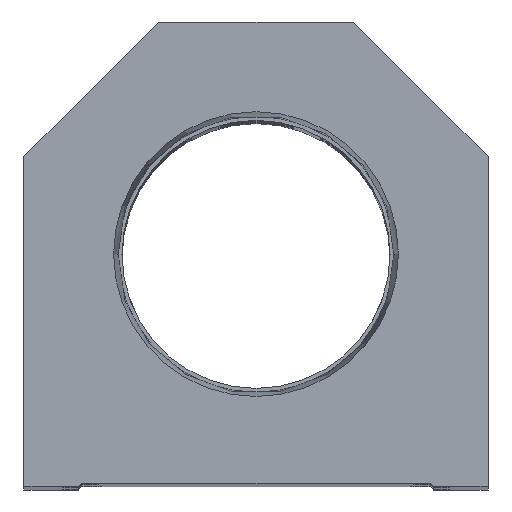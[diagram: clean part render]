
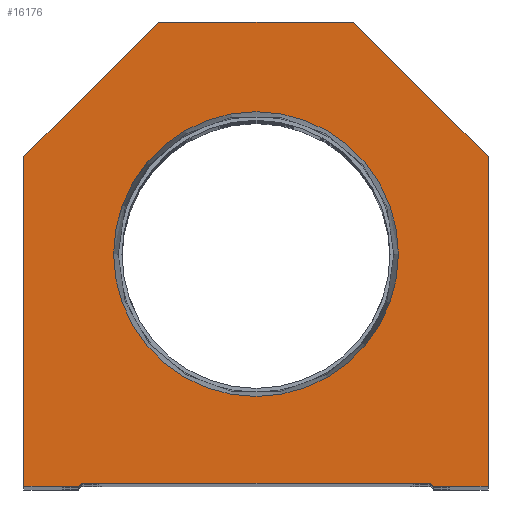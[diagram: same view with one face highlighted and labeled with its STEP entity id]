
A CAD part, top view. The second image highlights one B-rep face of the part: STEP entity #16176.
In plain terms, the highlighted planar face has unit normal (0, 0, 1).
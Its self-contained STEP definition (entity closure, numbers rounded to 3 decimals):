
#116 = VECTOR ( 'NONE', #8942, 1000. ) ;
#908 = EDGE_LOOP ( 'NONE', ( #2891, #5178, #23060, #20714, #13742, #9587, #17423, #8876, #2994, #23233 ) ) ;
#935 = CARTESIAN_POINT ( 'NONE',  ( -29.1, 0., 0. ) ) ;
#2201 = EDGE_CURVE ( 'NONE', #18374, #23171, #15187, .T. ) ;
#2291 = AXIS2_PLACEMENT_3D ( 'NONE', #8174, #10384, #20567 ) ;
#2376 = FACE_OUTER_BOUND ( 'NONE', #908, .T. ) ;
#2480 = VERTEX_POINT ( 'NONE', #18361 ) ;
#2891 = ORIENTED_EDGE ( 'NONE', *, *, #5960, .T. ) ;
#2893 = FACE_BOUND ( 'NONE', #15904, .T. ) ;
#2994 = ORIENTED_EDGE ( 'NONE', *, *, #9321, .T. ) ;
#3332 = CARTESIAN_POINT ( 'NONE',  ( 14.55, 14.55, 0. ) ) ;
#3444 = CARTESIAN_POINT ( 'NONE',  ( 28.6, 0.5, 0. ) ) ;
#3659 = VECTOR ( 'NONE', #13157, 1000. ) ;
#4015 = DIRECTION ( 'NONE',  ( 1., 0., 0. ) ) ;
#4103 = CARTESIAN_POINT ( 'NONE',  ( 23.374, 38.1, 0. ) ) ;
#4776 = CARTESIAN_POINT ( 'NONE',  ( 28.6, 0., 0. ) ) ;
#4962 = DIRECTION ( 'NONE',  ( 0., 1., 0. ) ) ;
#5093 = CARTESIAN_POINT ( 'NONE',  ( -14.55, 14.55, 0. ) ) ;
#5149 = CARTESIAN_POINT ( 'NONE',  ( 38.1, 54.1, 0. ) ) ;
#5178 = ORIENTED_EDGE ( 'NONE', *, *, #17593, .T. ) ;
#5189 = EDGE_CURVE ( 'NONE', #15089, #18247, #17783, .T. ) ;
#5202 = CIRCLE ( 'NONE', #23094, 23.374 ) ;
#5384 = DIRECTION ( 'NONE',  ( 1., 0., 0. ) ) ;
#5484 = LINE ( 'NONE', #7660, #24755 ) ;
#5735 = VERTEX_POINT ( 'NONE', #935 ) ;
#5920 = CARTESIAN_POINT ( 'NONE',  ( -38.1, 54.1, 0. ) ) ;
#5960 = EDGE_CURVE ( 'NONE', #9050, #5735, #17161, .T. ) ;
#6576 = LINE ( 'NONE', #4776, #15645 ) ;
#6780 = LINE ( 'NONE', #7033, #19583 ) ;
#7033 = CARTESIAN_POINT ( 'NONE',  ( -38.1, 54.1, 0. ) ) ;
#7660 = CARTESIAN_POINT ( 'NONE',  ( 38.1, 54.1, 0. ) ) ;
#8058 = EDGE_CURVE ( 'NONE', #2480, #20565, #20450, .T. ) ;
#8174 = CARTESIAN_POINT ( 'NONE',  ( 0., 0., 0. ) ) ;
#8568 = ORIENTED_EDGE ( 'NONE', *, *, #14154, .F. ) ;
#8710 = CARTESIAN_POINT ( 'NONE',  ( -16., 76.2, 0. ) ) ;
#8876 = ORIENTED_EDGE ( 'NONE', *, *, #8058, .T. ) ;
#8890 = EDGE_CURVE ( 'NONE', #22374, #9050, #16254, .T. ) ;
#8942 = DIRECTION ( 'NONE',  ( 1., 0., 0. ) ) ;
#9050 = VERTEX_POINT ( 'NONE', #17318 ) ;
#9321 = EDGE_CURVE ( 'NONE', #20565, #22374, #6780, .T. ) ;
#9587 = ORIENTED_EDGE ( 'NONE', *, *, #2201, .T. ) ;
#10273 = EDGE_CURVE ( 'NONE', #18743, #15089, #13224, .T. ) ;
#10384 = DIRECTION ( 'NONE',  ( 0., 0., 1. ) ) ;
#11045 = DIRECTION ( 'NONE',  ( 0.707, 0.707, 0. ) ) ;
#11867 = VECTOR ( 'NONE', #11045, 1000. ) ;
#11870 = CARTESIAN_POINT ( 'NONE',  ( 29.1, 0., 0. ) ) ;
#12327 = PLANE ( 'NONE',  #2291 ) ;
#12792 = DIRECTION ( 'NONE',  ( 1., 0., 0. ) ) ;
#13157 = DIRECTION ( 'NONE',  ( 0.707, -0.707, 0. ) ) ;
#13224 = LINE ( 'NONE', #17338, #116 ) ;
#13651 = VECTOR ( 'NONE', #14794, 1000. ) ;
#13742 = ORIENTED_EDGE ( 'NONE', *, *, #19442, .T. ) ;
#14154 = EDGE_CURVE ( 'NONE', #16234, #18231, #5202, .T. ) ;
#14247 = CARTESIAN_POINT ( 'NONE',  ( -38.1, 0., 0. ) ) ;
#14326 = EDGE_CURVE ( 'NONE', #23171, #2480, #5484, .T. ) ;
#14581 = VECTOR ( 'NONE', #4962, 1000. ) ;
#14794 = DIRECTION ( 'NONE',  ( -1., 0., 0. ) ) ;
#14800 = DIRECTION ( 'NONE',  ( -0.707, -0.707, 0. ) ) ;
#15055 = ORIENTED_EDGE ( 'NONE', *, *, #21180, .F. ) ;
#15089 = VERTEX_POINT ( 'NONE', #3444 ) ;
#15187 = LINE ( 'NONE', #17208, #14581 ) ;
#15602 = DIRECTION ( 'NONE',  ( -0.707, 0.707, 0. ) ) ;
#15645 = VECTOR ( 'NONE', #12792, 1000. ) ;
#15904 = EDGE_LOOP ( 'NONE', ( #15055, #8568 ) ) ;
#15961 = CARTESIAN_POINT ( 'NONE',  ( 0., 38.1, 0. ) ) ;
#16176 = ADVANCED_FACE ( 'NONE', ( #2893, #2376 ), #12327, .T. ) ;
#16234 = VERTEX_POINT ( 'NONE', #16531 ) ;
#16254 = LINE ( 'NONE', #14247, #16643 ) ;
#16411 = CARTESIAN_POINT ( 'NONE',  ( 16., 76.2, 0. ) ) ;
#16531 = CARTESIAN_POINT ( 'NONE',  ( -23.374, 38.1, 0. ) ) ;
#16643 = VECTOR ( 'NONE', #24213, 1000. ) ;
#17028 = DIRECTION ( 'NONE',  ( 1., 0., 0. ) ) ;
#17161 = LINE ( 'NONE', #18729, #17858 ) ;
#17208 = CARTESIAN_POINT ( 'NONE',  ( 38.1, 0., 0. ) ) ;
#17318 = CARTESIAN_POINT ( 'NONE',  ( -38.1, 0., 0. ) ) ;
#17338 = CARTESIAN_POINT ( 'NONE',  ( -28.6, 0.5, 0. ) ) ;
#17423 = ORIENTED_EDGE ( 'NONE', *, *, #14326, .T. ) ;
#17593 = EDGE_CURVE ( 'NONE', #5735, #18743, #22808, .T. ) ;
#17783 = LINE ( 'NONE', #3332, #3659 ) ;
#17858 = VECTOR ( 'NONE', #17028, 1000. ) ;
#18231 = VERTEX_POINT ( 'NONE', #4103 ) ;
#18247 = VERTEX_POINT ( 'NONE', #11870 ) ;
#18361 = CARTESIAN_POINT ( 'NONE',  ( 16., 76.2, 0. ) ) ;
#18374 = VERTEX_POINT ( 'NONE', #21902 ) ;
#18729 = CARTESIAN_POINT ( 'NONE',  ( -28.6, 0., 0. ) ) ;
#18743 = VERTEX_POINT ( 'NONE', #25720 ) ;
#19433 = DIRECTION ( 'NONE',  ( 0., 0., 1. ) ) ;
#19442 = EDGE_CURVE ( 'NONE', #18247, #18374, #6576, .T. ) ;
#19583 = VECTOR ( 'NONE', #14800, 1000. ) ;
#19635 = DIRECTION ( 'NONE',  ( 0., 0., 1. ) ) ;
#20335 = CIRCLE ( 'NONE', #24519, 23.374 ) ;
#20450 = LINE ( 'NONE', #16411, #13651 ) ;
#20565 = VERTEX_POINT ( 'NONE', #8710 ) ;
#20567 = DIRECTION ( 'NONE',  ( 1., 0., 0. ) ) ;
#20714 = ORIENTED_EDGE ( 'NONE', *, *, #5189, .T. ) ;
#21180 = EDGE_CURVE ( 'NONE', #18231, #16234, #20335, .T. ) ;
#21902 = CARTESIAN_POINT ( 'NONE',  ( 38.1, 0., 0. ) ) ;
#22374 = VERTEX_POINT ( 'NONE', #5920 ) ;
#22808 = LINE ( 'NONE', #5093, #11867 ) ;
#23060 = ORIENTED_EDGE ( 'NONE', *, *, #10273, .T. ) ;
#23094 = AXIS2_PLACEMENT_3D ( 'NONE', #23604, #19433, #5384 ) ;
#23171 = VERTEX_POINT ( 'NONE', #5149 ) ;
#23233 = ORIENTED_EDGE ( 'NONE', *, *, #8890, .T. ) ;
#23604 = CARTESIAN_POINT ( 'NONE',  ( 0., 38.1, 0. ) ) ;
#24213 = DIRECTION ( 'NONE',  ( 0., -1., 0. ) ) ;
#24519 = AXIS2_PLACEMENT_3D ( 'NONE', #15961, #19635, #4015 ) ;
#24755 = VECTOR ( 'NONE', #15602, 1000. ) ;
#25720 = CARTESIAN_POINT ( 'NONE',  ( -28.6, 0.5, 0. ) ) ;
